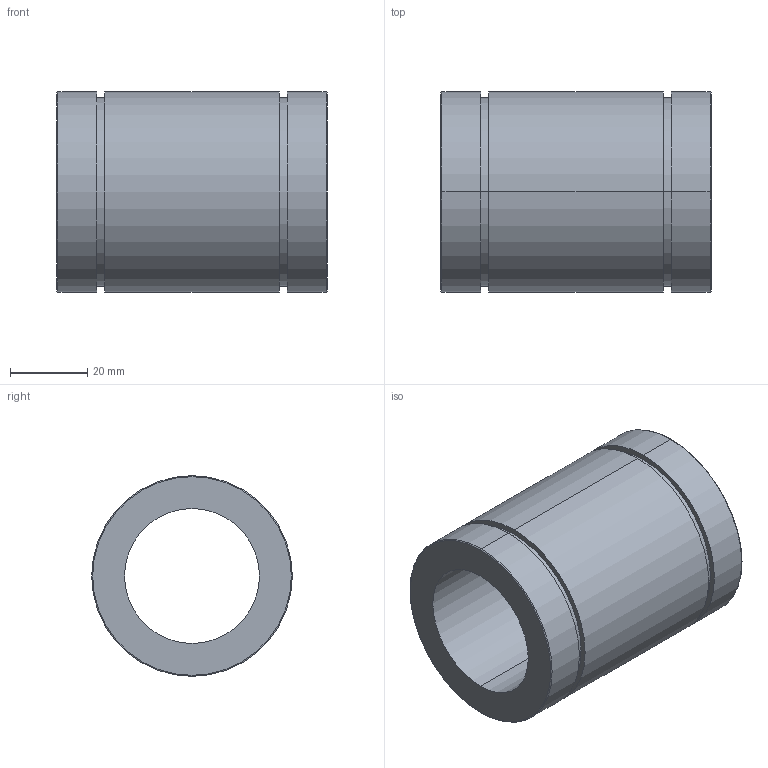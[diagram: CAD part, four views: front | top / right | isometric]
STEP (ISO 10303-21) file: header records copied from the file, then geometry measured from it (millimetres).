
FILE_DESCRIPTION (( 'STEP AP214' ), '1' );
FILE_NAME ('2.7013 Lineaarilaakeri LM35UU.STEP', '2024-06-17T07:48:19', ( '' ), ( '' ), 'SwSTEP 2.0', 'SolidWorks 2024', '' );
FILE_SCHEMA (( 'AUTOMOTIVE_DESIGN' ));
Length unit declared in the file: millimetre
Products named in the file (1): 2.7013 Lineaarilaakeri LM35UU
Bounding box: 70 x 52 x 52 mm (x, y, z)
Volume: 80308.4 mm3; surface area: 22332.7 mm2
Topology: 1 solids, 1 shells, 22 faces, 44 edges, 28 vertices
Faces by surface type: cylinder 12, plane 6, torus 4
Entity records: 615 total; most frequent: DIRECTION 122, CARTESIAN_POINT 95, ORIENTED_EDGE 88, AXIS2_PLACEMENT_3D 55, EDGE_CURVE 44, CIRCLE 32, VERTEX_POINT 28, EDGE_LOOP 28
